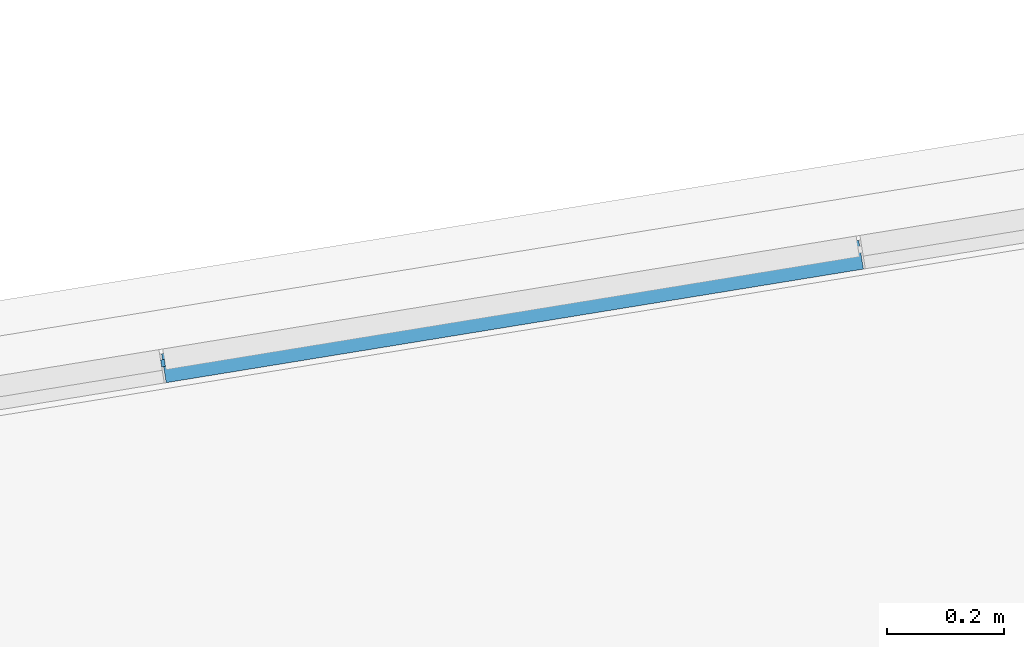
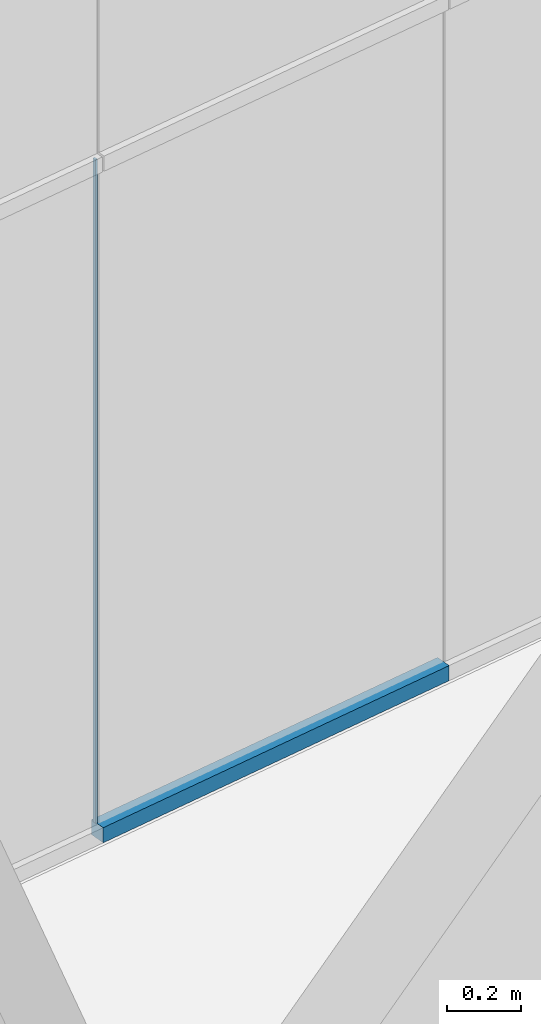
# One storey, part 2 of 13: 2 members, 1 element without a shape of its own.
"""IFC2X3 building model written with IfcOpenShell, lengths in millimetres."""

from ifc_helpers import new_model, entity, si_unit, converted_unit, derived_unit, direction, frame, origin, origin_with_axes, origin_2d_with_axis, place, context, subcontext, project, spatial, rectangle, extrude, source, transform, mapped, material, type_object, element, aggregate, save


model = new_model("IFC2X3")

# Units and contexts
plan_context = context("Plan", 3, precision=1e-05, world=origin_with_axes())
model_context = context("Model", 3, precision=0.01, world=origin(), true_north=direction((6.12323399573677e-17, 1.0)))
body_context = subcontext(model_context, "Body", "Model", "MODEL_VIEW")
ifc_project = project(units=[converted_unit("PLANEANGLEUNIT", "DEGREE", entity("IfcPositiveLengthMeasure", 0.0174532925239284), si_unit("PLANEANGLEUNIT", "RADIAN"), dimensions=[0, 0, 0, 0, 0, 0, 0]), si_unit("AREAUNIT", "SQUARE_METRE"), si_unit("LENGTHUNIT", "METRE", prefix="MILLI"), si_unit("MASSUNIT", "GRAM", prefix="KILO"), si_unit("POWERUNIT", "WATT"), si_unit("PRESSUREUNIT", "PASCAL", prefix="KILO"), si_unit("FORCEUNIT", "NEWTON", prefix="KILO"), si_unit("ELECTRICVOLTAGEUNIT", "VOLT"), si_unit("ELECTRICCURRENTUNIT", "AMPERE"), si_unit("THERMODYNAMICTEMPERATUREUNIT", "DEGREE_CELSIUS"), si_unit("TIMEUNIT", "SECOND"), si_unit("VOLUMEUNIT", "CUBIC_METRE"), derived_unit("LINEARVELOCITYUNIT", [(si_unit("LENGTHUNIT", "METRE"), 1), (si_unit("TIMEUNIT", "SECOND"), -1)]), derived_unit("VOLUMETRICFLOWRATEUNIT", [(si_unit("VOLUMEUNIT", "CUBIC_METRE"), 1), (si_unit("TIMEUNIT", "SECOND"), -1)]), derived_unit("THERMALTRANSMITTANCEUNIT", [(si_unit("POWERUNIT", "WATT"), 1), (si_unit("THERMODYNAMICTEMPERATUREUNIT", "KELVIN"), -1), (si_unit("AREAUNIT", "SQUARE_METRE"), -1)]), derived_unit("SOUNDPRESSUREUNIT", [(si_unit("PRESSUREUNIT", "PASCAL"), 1)])], contexts=[model_context, plan_context])

# Site, building, storey
site_placement = place(None, frame((-305029.896016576, -232111.759730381, 0.0), z_axis=(0.0, 0.0, 1.0), x_axis=(-0.160806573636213, 0.986985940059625, 0.0)))
site = spatial("IfcSite", under=ifc_project, at=site_placement, Name="Default", CompositionType="ELEMENT")
building_placement = place(site_placement, frame((0.0, 0.0, 0.0), z_axis=(0.0, 0.0, 1.0), x_axis=(1.0, -2.77555756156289e-17, 0.0)))
building = spatial("IfcBuilding", under=site, at=building_placement, Name="br001-a-200-1-0001", CompositionType="ELEMENT")
storey_placement = place(building_placement, frame((0.0, 0.0, 51360.0000000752), z_axis=(0.0, 0.0, 1.0), x_axis=(1.0, -2.77555756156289e-17, 0.0)))
storey = spatial("IfcBuildingStorey", under=building, at=storey_placement, Name="H01-Nivå D+0,36", CompositionType="ELEMENT", Elevation=51360.0000000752)

# Curtain wall, members
curtain_wall_type = type_object("IfcCurtainWallType", Name="Curtain Wall:A243 Innvendig glassvegg", PredefinedType="NOTDEFINED")
curtain_wall_placement = place(storey_placement, frame((0.0, 0.0, -51360.0000000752), z_axis=(0.0, 0.0, 1.0), x_axis=(1.0, -2.77555756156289e-17, 0.0)))
curtain_wall = element("IfcCurtainWall", 1, at=curtain_wall_placement, inside=storey, type_object=curtain_wall_type, Name="Curtain Wall:A243 Innvendig glassvegg", ObjectType="Curtain Wall:A243 Innvendig glassvegg")
ifc_material_1 = material(Name="T2 - Rubber")
member_type_1 = type_object("IfcMemberType", Name="Rectangular Mullion:6.66x12", PredefinedType="MULLION", material=ifc_material_1)
shared_shape_1 = source(origin(), body_context, "Body", "SweptSolid", [
    extrude(rectangle(XDim=6.6, YDim=12.0, at=origin_2d_with_axis()), frame((0.0, 6.0, -2196.66666667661), z_axis=(0.0, 0.0, 1.0), x_axis=(-1.0, 0.0, 0.0)), (0.0, 0.0, 1.0), 2196.6666666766),
])
member_1_placement = place(curtain_wall_placement, frame((1160258.59858442, -706063.045033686, 51410.0000000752), z_axis=(0.0, 0.0, -1.0), x_axis=(-2.77555756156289e-17, -1.0, 0.0)))
member_1 = element("IfcMember", 2, at=member_1_placement, type_object=member_type_1, material=ifc_material_1, Name="Rectangular Mullion:6.66x12", ObjectType="Rectangular Mullion:6.66x12", context=body_context, shape_type="MappedRepresentation", body=[
    mapped(shared_shape_1, transform((0.0, 0.0, 0.0), scale=1.0)),
])
ifc_material_2 = material(Name="Metal - Aluminium")
member_type_2 = type_object("IfcMemberType", Name="Rectangular Mullion:NSW 50x50 Add on", PredefinedType="MULLION", material=ifc_material_2)
shared_shape_2 = source(origin(), body_context, "Body", "SweptSolid", [
    extrude(rectangle(XDim=50.0, YDim=50.0, at=origin_2d_with_axis()), frame((-25.0, 15.0, -1211.6666666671), z_axis=(0.0, 0.0, 1.0), x_axis=(-1.0, 0.0, 0.0)), (0.0, 0.0, 1.0), 1211.6666666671),
])
member_2_placement = place(curtain_wall_placement, frame((1160258.59858442, -706063.045033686, 51360.0000000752), z_axis=(2.77555756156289e-17, 1.0, 0.0), x_axis=(0.0, 0.0, -1.0)))
member_2 = element("IfcMember", 3, at=member_2_placement, type_object=member_type_2, material=ifc_material_2, Name="Rectangular Mullion:NSW 50x50 Add on", ObjectType="Rectangular Mullion:NSW 50x50 Add on", context=body_context, shape_type="MappedRepresentation", body=[
    mapped(shared_shape_2, transform((0.0, 0.0, 0.0), scale=1.0)),
])
aggregate(curtain_wall, [member_1, member_2])

save(model, "model.ifc")
